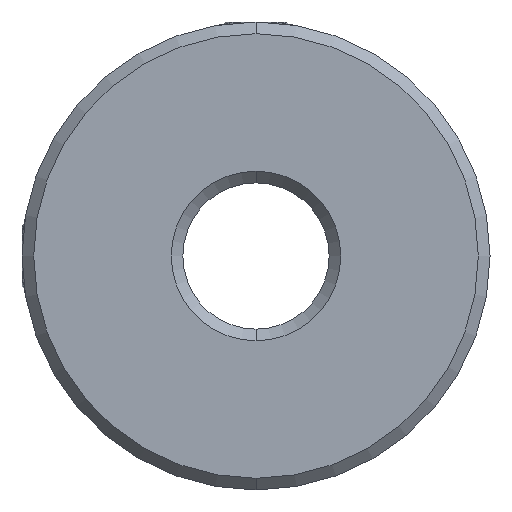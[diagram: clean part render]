
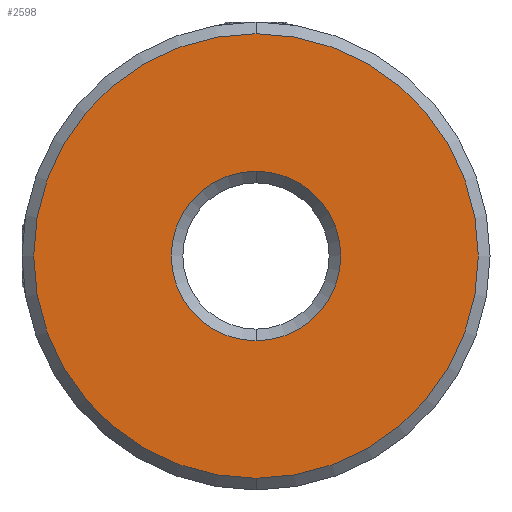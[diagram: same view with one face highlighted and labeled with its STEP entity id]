
A CAD part, front view. The second image highlights one B-rep face of the part: STEP entity #2598.
In plain terms, the highlighted planar face has unit normal (0, -1, 0).
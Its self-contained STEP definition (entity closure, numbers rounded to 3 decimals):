
#150 = DIRECTION ( 'NONE',  ( 0., 0., 1. ) ) ;
#334 = CARTESIAN_POINT ( 'NONE',  ( -10.188, -0.277, 15.246 ) ) ;
#370 = DIRECTION ( 'NONE',  ( 0., -1., 0. ) ) ;
#496 = VERTEX_POINT ( 'NONE', #2126 ) ;
#724 = CIRCLE ( 'NONE', #957, 15.2 ) ;
#740 = CARTESIAN_POINT ( 'NONE',  ( -10.188, -0.277, -15.154 ) ) ;
#823 = FACE_OUTER_BOUND ( 'NONE', #1431, .T. ) ;
#854 = ORIENTED_EDGE ( 'NONE', *, *, #1662, .T. ) ;
#957 = AXIS2_PLACEMENT_3D ( 'NONE', #969, #370, #1246 ) ;
#969 = CARTESIAN_POINT ( 'NONE',  ( -10.188, -0.277, 0.046 ) ) ;
#1138 = CARTESIAN_POINT ( 'NONE',  ( -10.188, -0.277, 0.046 ) ) ;
#1246 = DIRECTION ( 'NONE',  ( 0., 0., 1. ) ) ;
#1356 = EDGE_LOOP ( 'NONE', ( #854, #1931 ) ) ;
#1431 = EDGE_LOOP ( 'NONE', ( #1587, #1537 ) ) ;
#1507 = AXIS2_PLACEMENT_3D ( 'NONE', #3211, #1809, #3000 ) ;
#1537 = ORIENTED_EDGE ( 'NONE', *, *, #2556, .T. ) ;
#1587 = ORIENTED_EDGE ( 'NONE', *, *, #2402, .T. ) ;
#1662 = EDGE_CURVE ( 'NONE', #496, #2801, #3347, .T. ) ;
#1673 = DIRECTION ( 'NONE',  ( 0., -1., 0. ) ) ;
#1809 = DIRECTION ( 'NONE',  ( 0., 1., 0. ) ) ;
#1840 = AXIS2_PLACEMENT_3D ( 'NONE', #1950, #1896, #2780 ) ;
#1860 = VERTEX_POINT ( 'NONE', #740 ) ;
#1896 = DIRECTION ( 'NONE',  ( 0., 1., 0. ) ) ;
#1931 = ORIENTED_EDGE ( 'NONE', *, *, #3363, .T. ) ;
#1950 = CARTESIAN_POINT ( 'NONE',  ( -10.188, -0.277, 0.046 ) ) ;
#1960 = PLANE ( 'NONE',  #3373 ) ;
#2039 = CARTESIAN_POINT ( 'NONE',  ( -10.188, -0.277, 5.846 ) ) ;
#2126 = CARTESIAN_POINT ( 'NONE',  ( -10.188, -0.277, -5.754 ) ) ;
#2167 = FACE_BOUND ( 'NONE', #1356, .T. ) ;
#2207 = AXIS2_PLACEMENT_3D ( 'NONE', #2251, #1673, #3389 ) ;
#2229 = DIRECTION ( 'NONE',  ( 0., 1., 0. ) ) ;
#2251 = CARTESIAN_POINT ( 'NONE',  ( -10.188, -0.277, 0.046 ) ) ;
#2402 = EDGE_CURVE ( 'NONE', #3453, #1860, #3367, .T. ) ;
#2556 = EDGE_CURVE ( 'NONE', #1860, #3453, #724, .T. ) ;
#2598 = ADVANCED_FACE ( 'NONE', ( #823, #2167 ), #1960, .F. ) ;
#2780 = DIRECTION ( 'NONE',  ( 0., 0., 1. ) ) ;
#2801 = VERTEX_POINT ( 'NONE', #2039 ) ;
#3000 = DIRECTION ( 'NONE',  ( 0., 0., 1. ) ) ;
#3211 = CARTESIAN_POINT ( 'NONE',  ( -10.188, -0.277, 0.046 ) ) ;
#3347 = CIRCLE ( 'NONE', #1507, 5.8 ) ;
#3363 = EDGE_CURVE ( 'NONE', #2801, #496, #3501, .T. ) ;
#3367 = CIRCLE ( 'NONE', #2207, 15.2 ) ;
#3373 = AXIS2_PLACEMENT_3D ( 'NONE', #1138, #2229, #150 ) ;
#3389 = DIRECTION ( 'NONE',  ( 0., 0., 1. ) ) ;
#3453 = VERTEX_POINT ( 'NONE', #334 ) ;
#3501 = CIRCLE ( 'NONE', #1840, 5.8 ) ;
